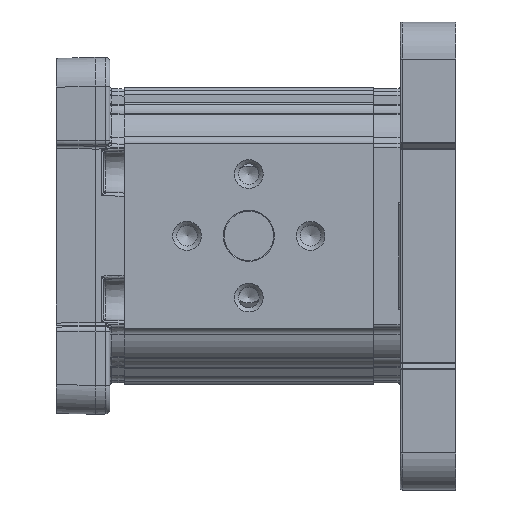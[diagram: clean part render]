
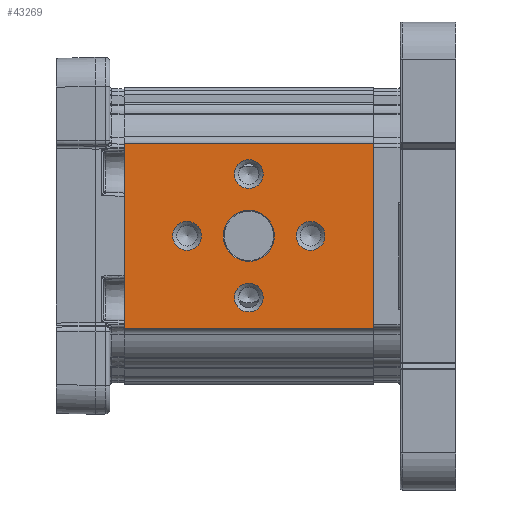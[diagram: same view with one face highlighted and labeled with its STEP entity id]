
A CAD part, left-side view. The second image highlights one B-rep face of the part: STEP entity #43269.
In plain terms, the highlighted planar face has unit normal (-1, 0, 0).
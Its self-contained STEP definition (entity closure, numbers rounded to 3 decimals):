
#2192=LINE('',#63236,#3858);
#2202=LINE('',#63337,#3868);
#2221=LINE('',#63385,#3887);
#2222=LINE('',#63387,#3888);
#3858=VECTOR('',#51898,1000.);
#3868=VECTOR('',#51990,1000.);
#3887=VECTOR('',#52045,1000.);
#3888=VECTOR('',#52048,1000.);
#5409=PLANE('',#45976);
#9348=ORIENTED_EDGE('',*,*,#16746,.T.);
#9349=ORIENTED_EDGE('',*,*,#16747,.T.);
#9350=ORIENTED_EDGE('',*,*,#16748,.T.);
#9351=ORIENTED_EDGE('',*,*,#16749,.T.);
#9352=ORIENTED_EDGE('',*,*,#16750,.T.);
#9353=ORIENTED_EDGE('',*,*,#16726,.T.);
#9354=ORIENTED_EDGE('',*,*,#16698,.T.);
#9355=ORIENTED_EDGE('',*,*,#16727,.T.);
#9356=ORIENTED_EDGE('',*,*,#16648,.F.);
#16648=EDGE_CURVE('',#20645,#20646,#2192,.T.);
#16698=EDGE_CURVE('',#20696,#20695,#2202,.T.);
#16726=EDGE_CURVE('',#20645,#20696,#2221,.T.);
#16727=EDGE_CURVE('',#20695,#20646,#2222,.F.);
#16746=EDGE_CURVE('',#20715,#20715,#23182,.F.);
#16747=EDGE_CURVE('',#20716,#20716,#23183,.F.);
#16748=EDGE_CURVE('',#20717,#20717,#23184,.F.);
#16749=EDGE_CURVE('',#20718,#20718,#23185,.F.);
#16750=EDGE_CURVE('',#20719,#20719,#23186,.F.);
#20645=VERTEX_POINT('',#63235);
#20646=VERTEX_POINT('',#63237);
#20695=VERTEX_POINT('',#63336);
#20696=VERTEX_POINT('',#63338);
#20715=VERTEX_POINT('',#63510);
#20716=VERTEX_POINT('',#63512);
#20717=VERTEX_POINT('',#63514);
#20718=VERTEX_POINT('',#63516);
#20719=VERTEX_POINT('',#63518);
#23182=CIRCLE('',#45977,3.5);
#23183=CIRCLE('',#45978,3.5);
#23184=CIRCLE('',#45979,3.5);
#23185=CIRCLE('',#45980,3.5);
#23186=CIRCLE('',#45981,6.2);
#25189=EDGE_LOOP('',(#9348));
#25190=EDGE_LOOP('',(#9349));
#25191=EDGE_LOOP('',(#9350));
#25192=EDGE_LOOP('',(#9351));
#25193=EDGE_LOOP('',(#9352));
#25194=EDGE_LOOP('',(#9353,#9354,#9355,#9356));
#27428=FACE_BOUND('',#25189,.T.);
#27429=FACE_BOUND('',#25190,.T.);
#27430=FACE_BOUND('',#25191,.T.);
#27431=FACE_BOUND('',#25192,.T.);
#27432=FACE_BOUND('',#25193,.T.);
#27433=FACE_BOUND('',#25194,.T.);
#43269=ADVANCED_FACE('',(#27428,#27429,#27430,#27431,#27432,#27433),#5409,
 .T.);
#45976=AXIS2_PLACEMENT_3D('',#63508,#52091,#52092);
#45977=AXIS2_PLACEMENT_3D('',#63509,#52093,#52094);
#45978=AXIS2_PLACEMENT_3D('',#63511,#52095,#52096);
#45979=AXIS2_PLACEMENT_3D('',#63513,#52097,#52098);
#45980=AXIS2_PLACEMENT_3D('',#63515,#52099,#52100);
#45981=AXIS2_PLACEMENT_3D('',#63517,#52101,#52102);
#51898=DIRECTION('',(0.,0.,1.));
#51990=DIRECTION('',(0.,0.,1.));
#52045=DIRECTION('',(0.,-1.,0.));
#52048=DIRECTION('',(0.,-1.,0.));
#52091=DIRECTION('',(-1.,0.,0.));
#52092=DIRECTION('',(0.,0.,1.));
#52093=DIRECTION('',(-1.,0.,0.));
#52094=DIRECTION('',(0.,0.,1.));
#52095=DIRECTION('',(-1.,0.,0.));
#52096=DIRECTION('',(0.,0.,1.));
#52097=DIRECTION('',(-1.,0.,0.));
#52098=DIRECTION('',(0.,0.,1.));
#52099=DIRECTION('',(-1.,0.,0.));
#52100=DIRECTION('',(0.,0.,1.));
#52101=DIRECTION('',(-1.,0.,0.));
#52102=DIRECTION('',(0.,0.,1.));
#63235=CARTESIAN_POINT('',(-33.,60.5,-22.5));
#63236=CARTESIAN_POINT('',(-33.,60.5,-21.711));
#63237=CARTESIAN_POINT('',(-33.,60.5,22.5));
#63336=CARTESIAN_POINT('',(-33.,0.,22.5));
#63337=CARTESIAN_POINT('',(-33.,0.,-21.711));
#63338=CARTESIAN_POINT('',(-33.,0.,-22.5));
#63385=CARTESIAN_POINT('',(-33.,60.5,-22.5));
#63387=CARTESIAN_POINT('',(-33.,60.5,22.5));
#63508=CARTESIAN_POINT('',(-33.,132.376,48.138));
#63509=CARTESIAN_POINT('',(-33.,30.25,-15.));
#63510=CARTESIAN_POINT('',(-33.,30.25,-11.5));
#63511=CARTESIAN_POINT('',(-33.,15.25,0.));
#63512=CARTESIAN_POINT('',(-33.,15.25,3.5));
#63513=CARTESIAN_POINT('',(-33.,30.25,15.));
#63514=CARTESIAN_POINT('',(-33.,30.25,18.5));
#63515=CARTESIAN_POINT('',(-33.,45.25,0.));
#63516=CARTESIAN_POINT('',(-33.,45.25,3.5));
#63517=CARTESIAN_POINT('',(-33.,30.25,0.));
#63518=CARTESIAN_POINT('',(-33.,30.25,6.2));
